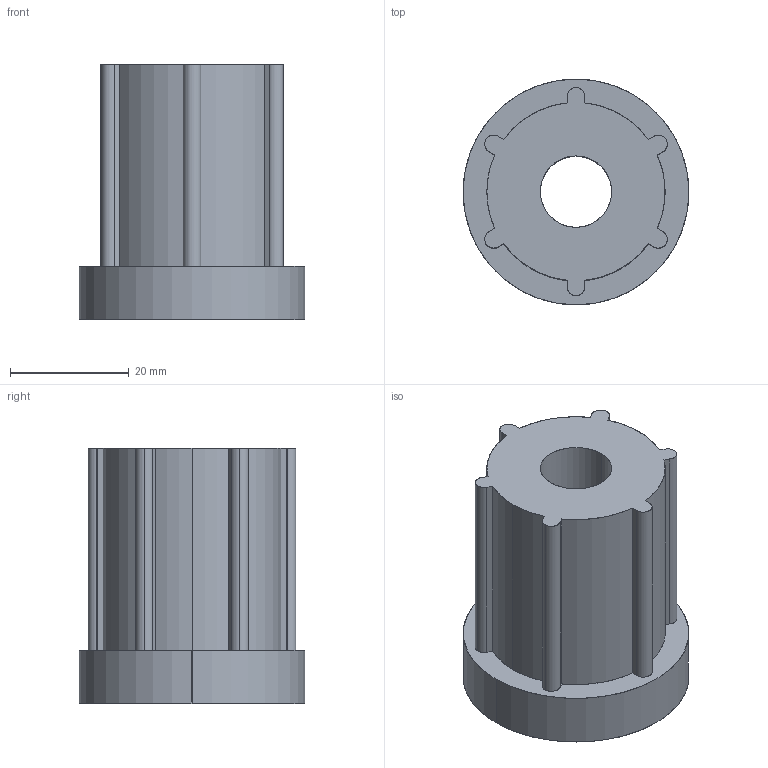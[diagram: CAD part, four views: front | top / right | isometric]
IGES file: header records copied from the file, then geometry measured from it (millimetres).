
Start section: SolidWorks IGES file using analytic representation for surfaces
Global section: file name: C:\Documents and Settings\URETIM3\Desktop\yeni katalog tolgay düzenli\A kataloðu\235 yuvarlak profil klavuzlari\235 381 512.IGS; native system: SolidWorks 2006 by SolidWorks Corporation; preprocessor: SolidWorks 2006 by SolidWorks Corporation; author: URETIM3; date: 060912.093338; units: millimetre
Bounding box: 38 x 38 x 43 mm (x, y, z)
Surface area: 8729.3 mm2 (no closed solid volume)
Topology: 0 solids, 0 shells, 38 faces, 636 edges, 636 vertices
Faces by surface type: revolution 23, bspline 15
